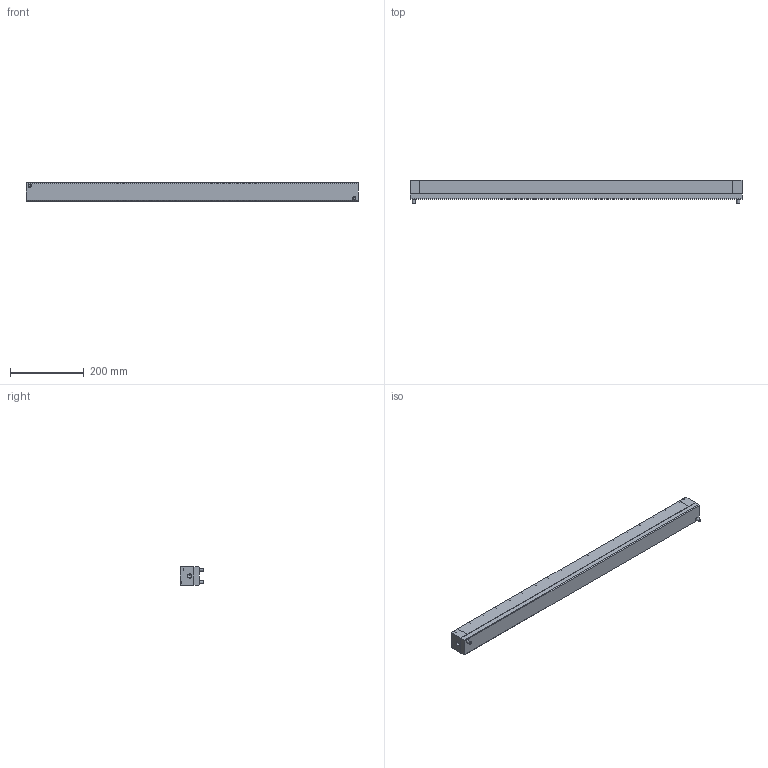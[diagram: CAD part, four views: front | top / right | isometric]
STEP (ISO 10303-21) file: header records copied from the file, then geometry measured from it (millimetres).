
FILE_DESCRIPTION( ( 'STEP AP214' ), '1' );
FILE_NAME( 'Z:/01-DesignData/標準品図面/★Web／カタログ用データ(型式別 3点Set)/069-ISR50S 系/ISR-50S-900-A_0_.stp', '2022-05-10T00:22:58', ( 'License CC BY-ND 4.0' ), ( 'CADENAS' ), ' ', 'PARTsolutions', ' ' );
FILE_SCHEMA( ( 'AUTOMOTIVE_DESIGN { 1 0 10303 214 1 1 1 1 }' ) );
Length unit declared in the file: millimetre
Products named in the file (5): ISR-50S-900-A(0); _ISR-50S-900-A-Body; _ISR-50S-900-A-Box; _ISR-50S-900-A(0)-Ball; _ISR-50S-900-A-screw
Assembly tree (21 placements, depth 2):
  ISR-50S-900-A(0)
    _ISR-50S-900-A-Body
    _ISR-50S-900-A-Box
    _ISR-50S-900-A(0)-Ball  x17
    _ISR-50S-900-A-screw  x2
Bounding box: 900 x 64 x 49.5 mm (x, y, z)
Volume: 2178888 mm3; surface area: 493186.6 mm2
Topology: 21 solids, 21 shells, 995 faces, 2084 edges, 1292 vertices
Faces by surface type: plane 699, cylinder 165, cone 76, torus 38, sphere 17
Full cylindrical faces by diameter (mm): 8 x2, 8.5 x34, 9 x2, 9.5 x34, 13 x4, 14.5 x4, 33 x17, 38.5 x17, 39 x17, 42 x34
Entity records: 26652 total; most frequent: DIRECTION 3618, CARTESIAN_POINT 3336, ORIENTED_EDGE 2960, EDGE_CURVE 1480, AXIS2_PLACEMENT_3D 1317, EDGE_LOOP 1110, VERTEX_POINT 1035, LINE 984
